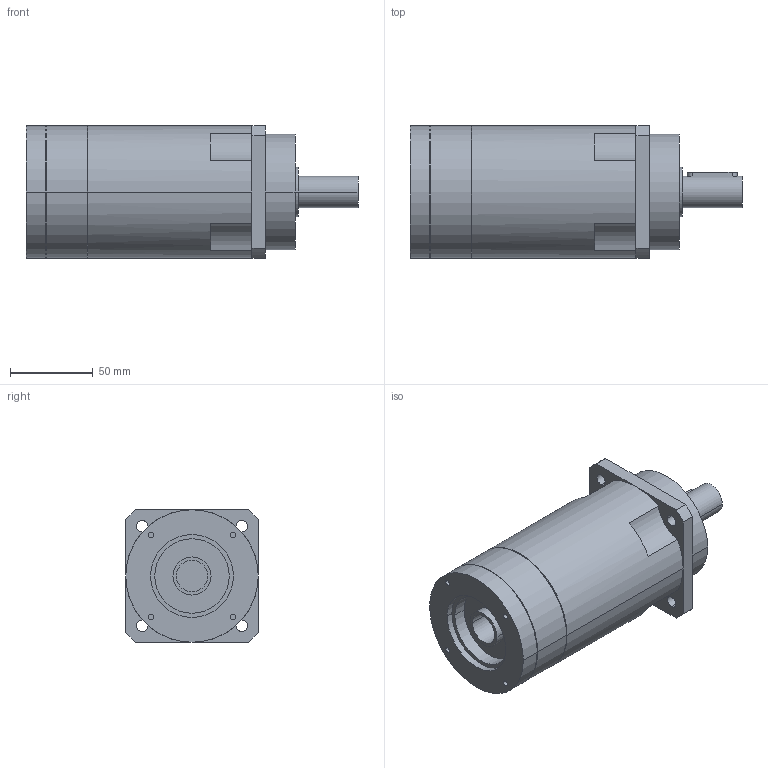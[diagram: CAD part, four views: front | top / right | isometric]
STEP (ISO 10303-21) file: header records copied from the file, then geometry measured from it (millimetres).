
FILE_DESCRIPTION(('CoCreate Modeling STEP Export'),'2;1');
FILE_NAME('GPR100_ig-48-64-80-100-120-144-180-216_19_B5_19_P22.stp','2014-08-26T11:56:25',(''),(''),'CoCreate Modeling STEP processor for AP214 (Solid Model)','CoCreate Modeling 16.00C 25-Feb-2009 (C) Parametric Technology GmbH','');
FILE_SCHEMA(('AUTOMOTIVE_DESIGN { 1 0 10303 214 1 1 1 1 }'));
Length unit declared in the file: millimetre
Products named in the file (2): GPR100_ig-48-64-80-100-120-144-180-216_19_B5_19_P22
Assembly tree (1 placements, depth 2):
  GPR100_ig-48-64-80-100-120-144-180-216_19_B5_19_P22
    GPR100_ig-48-64-80-100-120-144-180-216_19_B5_19_P22
Bounding box: 200.4 x 80 x 80 mm (x, y, z)
Volume: 779066.3 mm3; surface area: 62281.1 mm2
Topology: 1 solids, 1 shells, 84 faces, 217 edges, 147 vertices
Faces by surface type: cylinder 48, plane 30, cone 6
Entity records: 2304 total; most frequent: ORIENTED_EDGE 430, CARTESIAN_POINT 419, DIRECTION 336, EDGE_CURVE 215, VERTEX_POINT 147, AXIS2_PLACEMENT_3D 128, EDGE_LOOP 106, FACE_OUTER_BOUND 84
